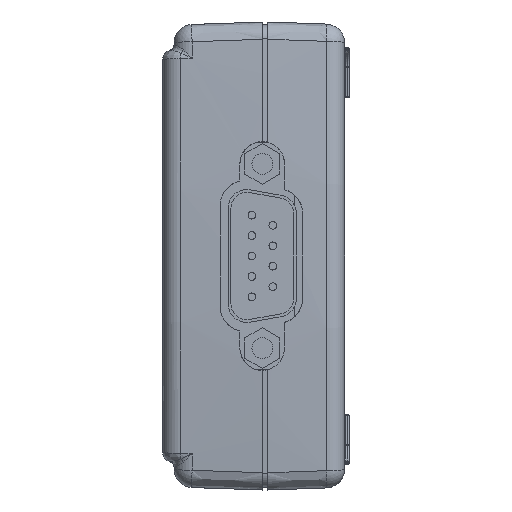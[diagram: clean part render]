
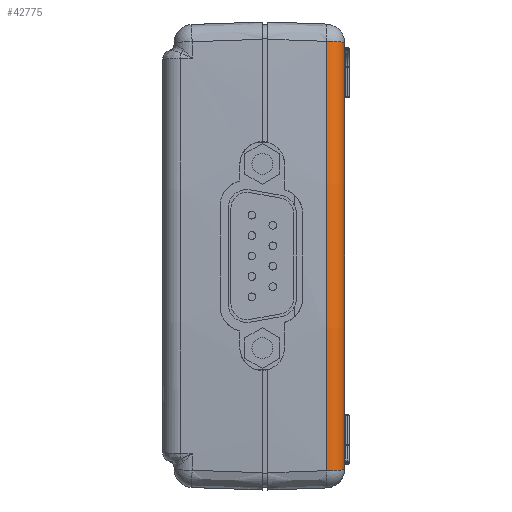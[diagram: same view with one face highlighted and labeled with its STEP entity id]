
A CAD part, left-side view. The second image highlights one B-rep face of the part: STEP entity #42775.
In plain terms, the highlighted toroidal (fillet/blend) face has major radius 378.183 mm and minor radius 2.54 mm.
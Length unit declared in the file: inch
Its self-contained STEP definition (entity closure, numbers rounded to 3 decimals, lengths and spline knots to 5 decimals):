
#15667=CARTESIAN_POINT('',(-1.44512,-0.11049,
-1.14676));
#16419=CARTESIAN_POINT('',(13.5,-0.11049,0.));
#16420=DIRECTION('',(0.,-1.,0.));
#16421=DIRECTION('',(-0.997,0.,0.077));
#16422=AXIS2_PLACEMENT_3D('',#16419,#16420,#16421);
#16424=CARTESIAN_POINT('',(-1.34547,-0.107,1.13911));
#16425=DIRECTION('',(0.077,0.,0.997));
#16426=DIRECTION('',(-0.996,-0.035,0.076));
#16427=AXIS2_PLACEMENT_3D('',#16424,#16425,#16426);
#16429=CARTESIAN_POINT('',(13.5,-0.207,0.));
#16430=DIRECTION('',(0.,-1.,0.));
#16431=DIRECTION('',(-0.997,0.,0.077));
#16432=AXIS2_PLACEMENT_3D('',#16429,#16430,#16431);
#16434=CARTESIAN_POINT('',(-1.34547,-0.107,-1.13911));
#16435=DIRECTION('',(0.077,0.,-0.997));
#16436=DIRECTION('',(0.,-1.,0.));
#16437=AXIS2_PLACEMENT_3D('',#16434,#16435,#16436);
#32856=CARTESIAN_POINT('',(-1.34547,-0.207,1.13911));
#32858=VERTEX_POINT('',#32856);
#32865=CARTESIAN_POINT('',(-1.34547,-0.207,-1.13911));
#32866=VERTEX_POINT('',#32865);
#32867=VERTEX_POINT('',#15667);
#32870=CARTESIAN_POINT('',(-1.44512,-0.11049,
1.14676));
#32871=VERTEX_POINT('',#32870);
#42762=CARTESIAN_POINT('',(13.5,-0.107,0.));
#42763=DIRECTION('',(0.,1.,0.));
#42764=DIRECTION('',(-0.997,0.,0.083));
#42765=AXIS2_PLACEMENT_3D('',#42762,#42763,#42764);
#42766=TOROIDAL_SURFACE('',#42765,14.88911,0.1);
#42767=ORIENTED_EDGE('',*,*,#42047,.F.);
#42769=ORIENTED_EDGE('',*,*,#42768,.T.);
#42771=ORIENTED_EDGE('',*,*,#42770,.T.);
#42772=ORIENTED_EDGE('',*,*,#42755,.T.);
#42773=EDGE_LOOP('',(#42767,#42769,#42771,#42772));
#42774=FACE_OUTER_BOUND('',#42773,.F.);
#42775=ADVANCED_FACE('',(#42774),#42766,.T.);
#16423=CIRCLE('',#16422,14.98905);
#16428=CIRCLE('',#16427,0.1);
#16433=CIRCLE('',#16432,14.88911);
#16438=CIRCLE('',#16437,0.1);
#42047=EDGE_CURVE('',#32871,#32867,#16423,.T.);
#42755=EDGE_CURVE('',#32866,#32867,#16438,.T.);
#42768=EDGE_CURVE('',#32871,#32858,#16428,.T.);
#42770=EDGE_CURVE('',#32858,#32866,#16433,.T.);
